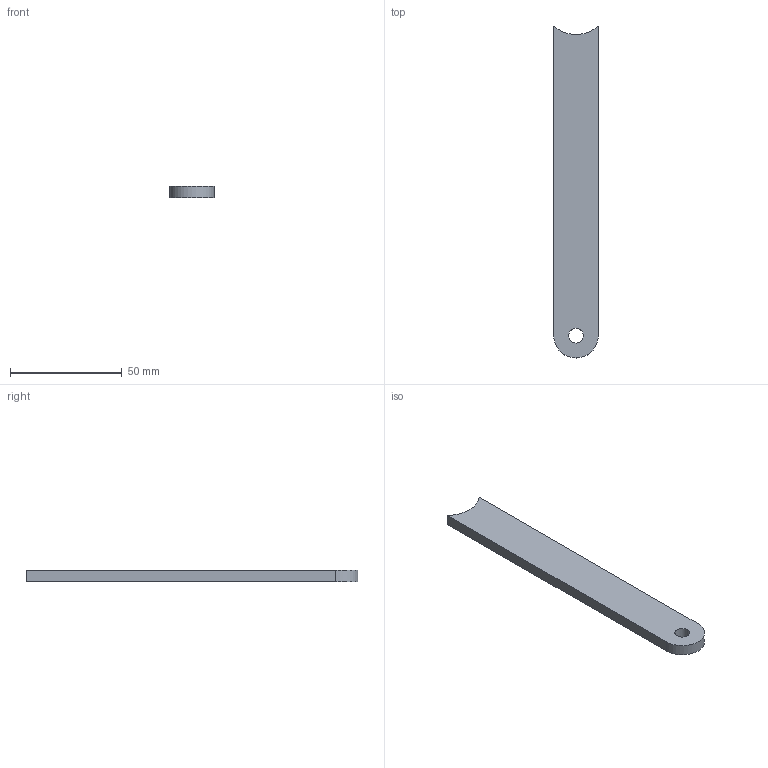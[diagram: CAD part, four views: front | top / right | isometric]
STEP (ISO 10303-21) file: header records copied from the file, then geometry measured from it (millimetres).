
FILE_DESCRIPTION(/* description */ (''),/* implementation_level */ '2;1');
FILE_NAME(/* name */ 'C:\Users\Apardo\Documents\Proyectos\Dietrich\Proyecto 1\PLATE ROLLING MACHINE\STEP\2.2 crank handle2.stp',/* time_stamp */ '2020-11-03T20:42:46-04:00',/* author */ ('Apardo'),/* organization */ ('22'),/* preprocessor_version */ 'ST-DEVELOPER v18',/* originating_system */ 'Autodesk Inventor 2020',/* authorisation */ '');
FILE_SCHEMA (('AUTOMOTIVE_DESIGN { 1 0 10303 214 3 1 1 }'));
Length unit declared in the file: millimetre
Products named in the file (1): crank handle2
Bounding box: 20 x 148.82 x 5 mm (x, y, z)
Volume: 14231.9 mm3; surface area: 7451.9 mm2
Topology: 1 solids, 1 shells, 7 faces, 16 edges, 11 vertices
Faces by surface type: plane 4, cylinder 3
Full cylindrical faces by diameter (mm): 6.647 x1
Entity records: 250 total; most frequent: DIRECTION 39, CARTESIAN_POINT 35, ORIENTED_EDGE 32, EDGE_CURVE 16, AXIS2_PLACEMENT_3D 15, VERTEX_POINT 11, EDGE_LOOP 9, LINE 9
